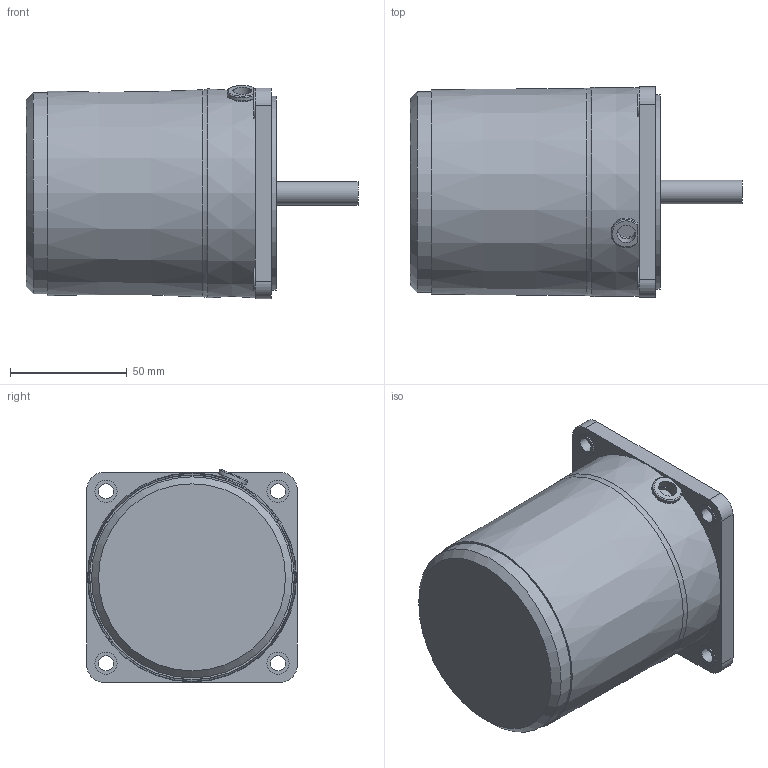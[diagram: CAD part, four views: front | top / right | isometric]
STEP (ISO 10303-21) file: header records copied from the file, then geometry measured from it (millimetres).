
FILE_DESCRIPTION((''),'2;1');
FILE_NAME('D:\STP파일\40W MOTOR\S9I40S.stp','2013-05-20T16:47:49',('leebh'),(''),'Autodesk Inventor 2011','Autodesk Inventor 2011','');
FILE_SCHEMA(('AUTOMOTIVE_DESIGN { 1 0 10303 214 1 1 1 1 }'));
Length unit declared in the file: millimetre
Products named in the file (1): 부품3
Bounding box: 142 x 90 x 91.17 mm (x, y, z)
Volume: 648531 mm3; surface area: 49633 mm2
Topology: 1 solids, 2 shells, 78 faces, 183 edges, 121 vertices
Faces by surface type: plane 43, cylinder 30, cone 3, torus 2
Full cylindrical faces by diameter (mm): 6.5 x4, 8 x1, 9.5 x4, 10 x2, 40 x1, 83 x1, 86 x1
Entity records: 2212 total; most frequent: CARTESIAN_POINT 413, DIRECTION 382, ORIENTED_EDGE 320, EDGE_CURVE 160, AXIS2_PLACEMENT_3D 148, EDGE_LOOP 119, VERTEX_POINT 117, VECTOR 86
